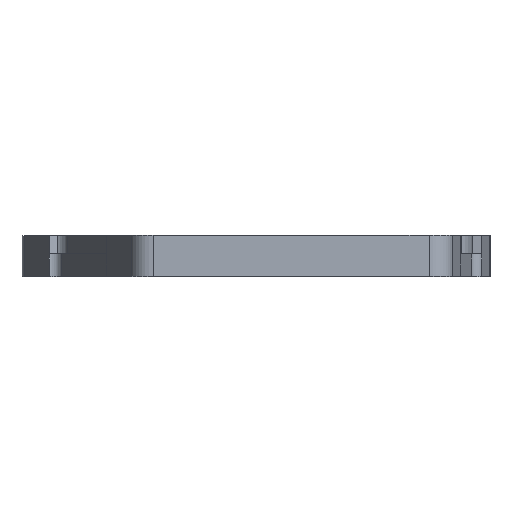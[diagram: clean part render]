
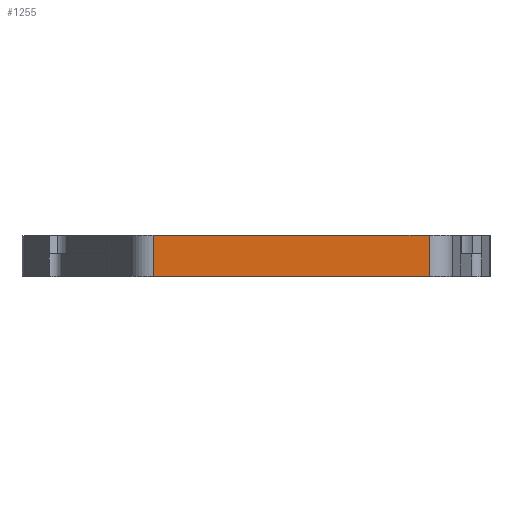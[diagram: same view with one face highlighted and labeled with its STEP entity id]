
A CAD part, top view. The second image highlights one B-rep face of the part: STEP entity #1255.
In plain terms, the highlighted planar face has unit normal (0, 0, 1).
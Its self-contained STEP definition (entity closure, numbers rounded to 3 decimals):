
#8 = EDGE_CURVE ( 'NONE', #2451, #2422, #2783, .T. ) ;
#172 = VECTOR ( 'NONE', #2164, 1000. ) ;
#334 = DIRECTION ( 'NONE',  ( -1., 0., 0. ) ) ;
#390 = CARTESIAN_POINT ( 'NONE',  ( -24.352, -1., 41.08 ) ) ;
#393 = ORIENTED_EDGE ( 'NONE', *, *, #657, .F. ) ;
#657 = EDGE_CURVE ( 'NONE', #980, #2422, #1868, .T. ) ;
#714 = CARTESIAN_POINT ( 'NONE',  ( -24.352, 8., 41.08 ) ) ;
#801 = ORIENTED_EDGE ( 'NONE', *, *, #1376, .F. ) ;
#816 = CARTESIAN_POINT ( 'NONE',  ( -24.352, 8., 41.08 ) ) ;
#980 = VERTEX_POINT ( 'NONE', #1049 ) ;
#1049 = CARTESIAN_POINT ( 'NONE',  ( 35.977, -1., 41.08 ) ) ;
#1062 = ORIENTED_EDGE ( 'NONE', *, *, #1132, .F. ) ;
#1083 = VECTOR ( 'NONE', #334, 1000. ) ;
#1132 = EDGE_CURVE ( 'NONE', #2451, #1207, #3001, .T. ) ;
#1207 = VERTEX_POINT ( 'NONE', #1591 ) ;
#1255 = ADVANCED_FACE ( 'NONE', ( #2435 ), #1909, .F. ) ;
#1376 = EDGE_CURVE ( 'NONE', #1207, #980, #1454, .T. ) ;
#1454 = LINE ( 'NONE', #3814, #2254 ) ;
#1591 = CARTESIAN_POINT ( 'NONE',  ( 35.977, 8., 41.08 ) ) ;
#1656 = DIRECTION ( 'NONE',  ( -1., 0., 0. ) ) ;
#1868 = LINE ( 'NONE', #390, #1083 ) ;
#1909 = PLANE ( 'NONE',  #2350 ) ;
#1942 = CARTESIAN_POINT ( 'NONE',  ( -24.352, 8., 41.08 ) ) ;
#1973 = CARTESIAN_POINT ( 'NONE',  ( -24.352, -1., 41.08 ) ) ;
#2164 = DIRECTION ( 'NONE',  ( 1., 0., 0. ) ) ;
#2254 = VECTOR ( 'NONE', #2638, 1000. ) ;
#2350 = AXIS2_PLACEMENT_3D ( 'NONE', #1942, #3723, #1656 ) ;
#2422 = VERTEX_POINT ( 'NONE', #1973 ) ;
#2435 = FACE_OUTER_BOUND ( 'NONE', #2946, .T. ) ;
#2451 = VERTEX_POINT ( 'NONE', #816 ) ;
#2455 = CARTESIAN_POINT ( 'NONE',  ( -24.352, 8., 41.08 ) ) ;
#2638 = DIRECTION ( 'NONE',  ( 0., -1., 0. ) ) ;
#2783 = LINE ( 'NONE', #714, #3399 ) ;
#2922 = ORIENTED_EDGE ( 'NONE', *, *, #8, .T. ) ;
#2946 = EDGE_LOOP ( 'NONE', ( #2922, #393, #801, #1062 ) ) ;
#3001 = LINE ( 'NONE', #2455, #172 ) ;
#3040 = DIRECTION ( 'NONE',  ( 0., -1., 0. ) ) ;
#3399 = VECTOR ( 'NONE', #3040, 1000. ) ;
#3723 = DIRECTION ( 'NONE',  ( 0., 0., -1. ) ) ;
#3814 = CARTESIAN_POINT ( 'NONE',  ( 35.977, 8., 41.08 ) ) ;
